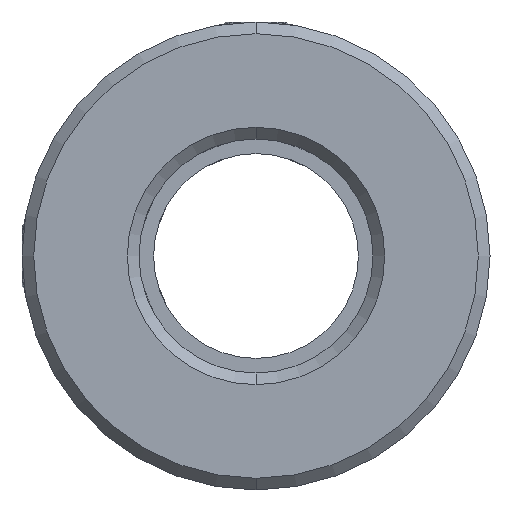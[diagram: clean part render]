
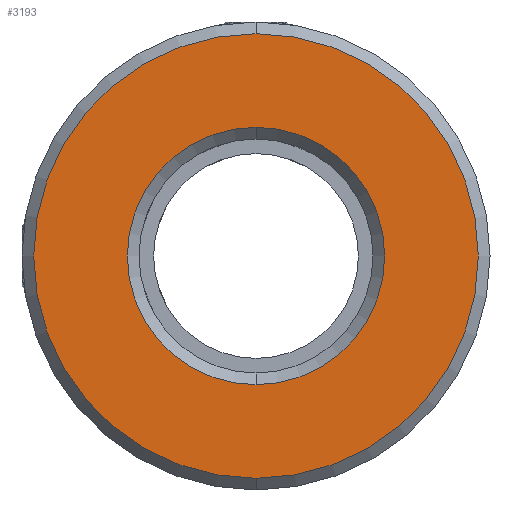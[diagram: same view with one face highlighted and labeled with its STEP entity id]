
A CAD part, front view. The second image highlights one B-rep face of the part: STEP entity #3193.
In plain terms, the highlighted planar face has unit normal (0, -1, 0).
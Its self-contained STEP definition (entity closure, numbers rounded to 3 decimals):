
#41 = CIRCLE ( 'NONE', #1798, 8.8 ) ;
#197 = CIRCLE ( 'NONE', #2012, 15.2 ) ;
#235 = DIRECTION ( 'NONE',  ( 0., -1., 0. ) ) ;
#299 = CARTESIAN_POINT ( 'NONE',  ( -10.188, -0.277, 0.046 ) ) ;
#407 = ORIENTED_EDGE ( 'NONE', *, *, #2424, .T. ) ;
#424 = DIRECTION ( 'NONE',  ( 0., 1., 0. ) ) ;
#497 = CARTESIAN_POINT ( 'NONE',  ( -10.188, -0.277, 0.046 ) ) ;
#552 = CARTESIAN_POINT ( 'NONE',  ( -10.188, -0.277, -8.754 ) ) ;
#723 = AXIS2_PLACEMENT_3D ( 'NONE', #2025, #2631, #1209 ) ;
#796 = DIRECTION ( 'NONE',  ( 0., 0., 1. ) ) ;
#820 = ORIENTED_EDGE ( 'NONE', *, *, #1727, .T. ) ;
#885 = CIRCLE ( 'NONE', #2580, 8.8 ) ;
#971 = FACE_OUTER_BOUND ( 'NONE', #2727, .T. ) ;
#1061 = CARTESIAN_POINT ( 'NONE',  ( -10.188, -0.277, 8.846 ) ) ;
#1203 = FACE_BOUND ( 'NONE', #3429, .T. ) ;
#1209 = DIRECTION ( 'NONE',  ( 0., 0., 1. ) ) ;
#1475 = VERTEX_POINT ( 'NONE', #1061 ) ;
#1550 = DIRECTION ( 'NONE',  ( 0., 0., 1. ) ) ;
#1638 = EDGE_CURVE ( 'NONE', #1475, #2350, #885, .T. ) ;
#1727 = EDGE_CURVE ( 'NONE', #2350, #1475, #41, .T. ) ;
#1784 = VERTEX_POINT ( 'NONE', #3279 ) ;
#1798 = AXIS2_PLACEMENT_3D ( 'NONE', #299, #424, #1550 ) ;
#1935 = CIRCLE ( 'NONE', #723, 15.2 ) ;
#2012 = AXIS2_PLACEMENT_3D ( 'NONE', #497, #235, #2506 ) ;
#2025 = CARTESIAN_POINT ( 'NONE',  ( -10.188, -0.277, 0.046 ) ) ;
#2350 = VERTEX_POINT ( 'NONE', #552 ) ;
#2358 = PLANE ( 'NONE',  #2963 ) ;
#2407 = DIRECTION ( 'NONE',  ( 0., 1., 0. ) ) ;
#2424 = EDGE_CURVE ( 'NONE', #2495, #1784, #197, .T. ) ;
#2495 = VERTEX_POINT ( 'NONE', #3178 ) ;
#2506 = DIRECTION ( 'NONE',  ( 0., 0., 1. ) ) ;
#2540 = CARTESIAN_POINT ( 'NONE',  ( -10.188, -0.277, 0.046 ) ) ;
#2558 = DIRECTION ( 'NONE',  ( 0., 1., 0. ) ) ;
#2580 = AXIS2_PLACEMENT_3D ( 'NONE', #2540, #2558, #796 ) ;
#2607 = ORIENTED_EDGE ( 'NONE', *, *, #3424, .T. ) ;
#2631 = DIRECTION ( 'NONE',  ( 0., -1., 0. ) ) ;
#2727 = EDGE_LOOP ( 'NONE', ( #2607, #407 ) ) ;
#2963 = AXIS2_PLACEMENT_3D ( 'NONE', #2984, #2407, #3525 ) ;
#2984 = CARTESIAN_POINT ( 'NONE',  ( -10.188, -0.277, 0.046 ) ) ;
#3038 = ORIENTED_EDGE ( 'NONE', *, *, #1638, .T. ) ;
#3178 = CARTESIAN_POINT ( 'NONE',  ( -10.188, -0.277, -15.154 ) ) ;
#3193 = ADVANCED_FACE ( 'NONE', ( #971, #1203 ), #2358, .F. ) ;
#3279 = CARTESIAN_POINT ( 'NONE',  ( -10.188, -0.277, 15.246 ) ) ;
#3424 = EDGE_CURVE ( 'NONE', #1784, #2495, #1935, .T. ) ;
#3429 = EDGE_LOOP ( 'NONE', ( #820, #3038 ) ) ;
#3525 = DIRECTION ( 'NONE',  ( 0., 0., 1. ) ) ;
